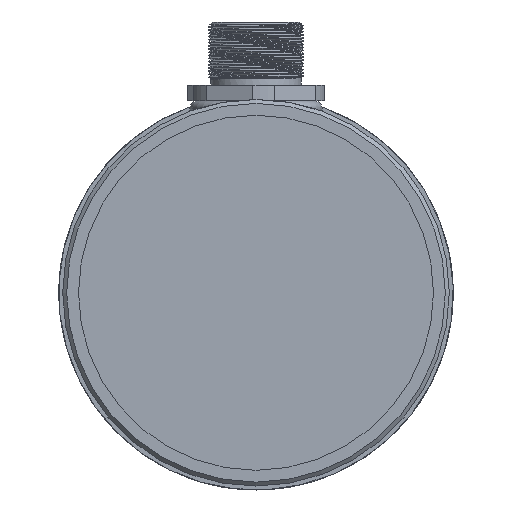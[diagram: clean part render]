
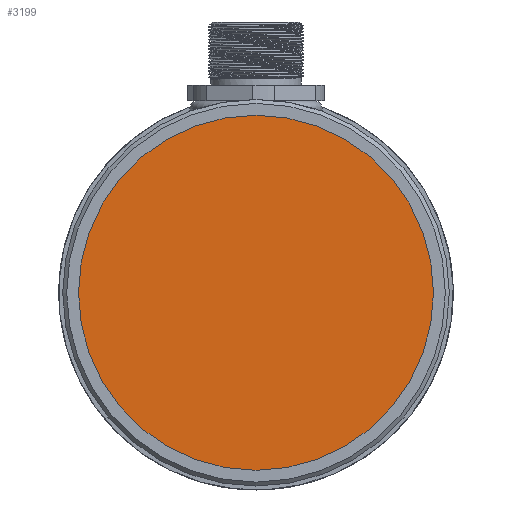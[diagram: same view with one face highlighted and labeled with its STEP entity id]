
A CAD part, left-side view. The second image highlights one B-rep face of the part: STEP entity #3199.
In plain terms, the highlighted planar face has unit normal (-1, 0, 0).
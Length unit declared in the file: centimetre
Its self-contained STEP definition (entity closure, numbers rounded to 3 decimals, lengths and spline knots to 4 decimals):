
#949=PLANE('',#3412);
#1032=CIRCLE('',#3410,2.25);
#1137=VERTEX_POINT('',#4372);
#1509=EDGE_CURVE('',#1137,#1137,#1032,.T.);
#1919=ORIENTED_EDGE('',*,*,#1509,.T.);
#2700=EDGE_LOOP('',(#1919));
#2955=FACE_BOUND('',#2700,.T.);
#3199=ADVANCED_FACE('',(#2955),#949,.T.);
#3410=AXIS2_PLACEMENT_3D('',#4371,#3685,#3686);
#3412=AXIS2_PLACEMENT_3D('',#4375,#3689,$);
#3685=DIRECTION('',(-1.,0.,0.));
#3686=DIRECTION('',(0.,0.,2.25));
#3689=DIRECTION('',(-1.,0.,0.));
#4371=CARTESIAN_POINT('',(0.1,0.,0.));
#4372=CARTESIAN_POINT('',(0.1,0.,2.25));
#4375=CARTESIAN_POINT('',(0.1,0.,0.));
